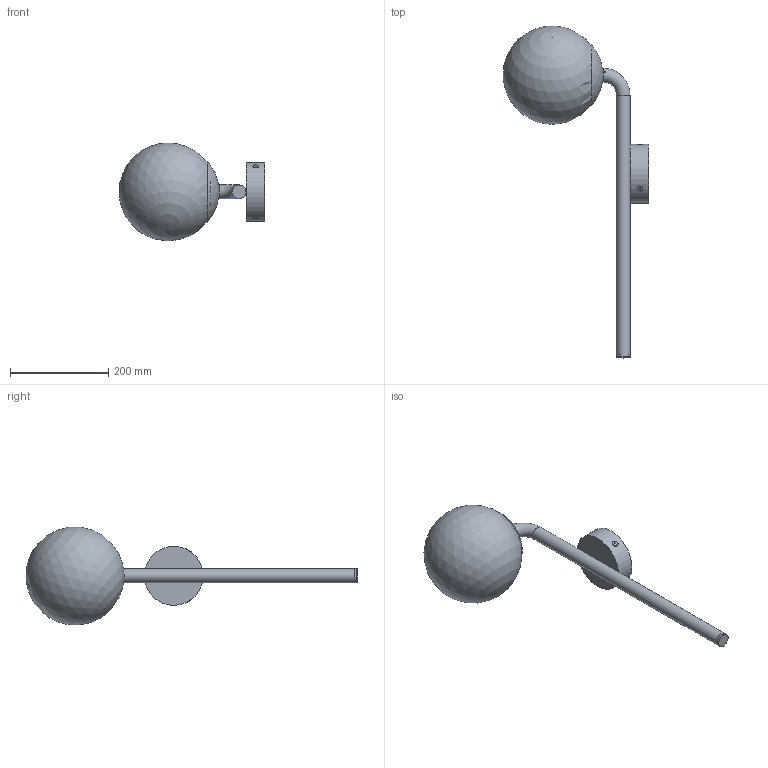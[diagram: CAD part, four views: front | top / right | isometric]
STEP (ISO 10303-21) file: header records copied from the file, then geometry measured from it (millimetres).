
FILE_DESCRIPTION(/* description */ (''),/* implementation_level */ '2;1');
FILE_NAME(/* name */ 'B735 Tubular sconce 1.stp',/* time_stamp */ '2025-05-09T10:21:37+02:00',/* author */ ('Lukasz'),/* organization */ (''),/* preprocessor_version */ 'ST-DEVELOPER v20.1',/* originating_system */ 'Autodesk Inventor 2026',/* authorisation */ '');
FILE_SCHEMA (('AUTOMOTIVE_DESIGN { 1 0 10303 214 3 1 1 }'));
Length unit declared in the file: millimetre
Products named in the file (1): B735 Tubular sconce 1 - katalog - jako część
Bounding box: 296.12 x 675.99 x 199.41 mm (x, y, z)
Volume: 4988370.8 mm3; surface area: 269227.4 mm2
Topology: 15 solids, 15 shells, 153 faces, 333 edges, 212 vertices
Faces by surface type: plane 83, cylinder 45, cone 13, bspline 6, torus 3, sphere 3
Full cylindrical faces by diameter (mm): 3 x2, 4 x2, 6 x3, 7 x1, 7.6 x2, 9 x1, 16 x2, 24 x1, 26 x1, 28 x2, 120 x1
Entity records: 5227 total; most frequent: CARTESIAN_POINT 1563, DIRECTION 753, ORIENTED_EDGE 658, EDGE_CURVE 329, AXIS2_PLACEMENT_3D 296, VERTEX_POINT 212, STYLED_ITEM 168, LINE 161
